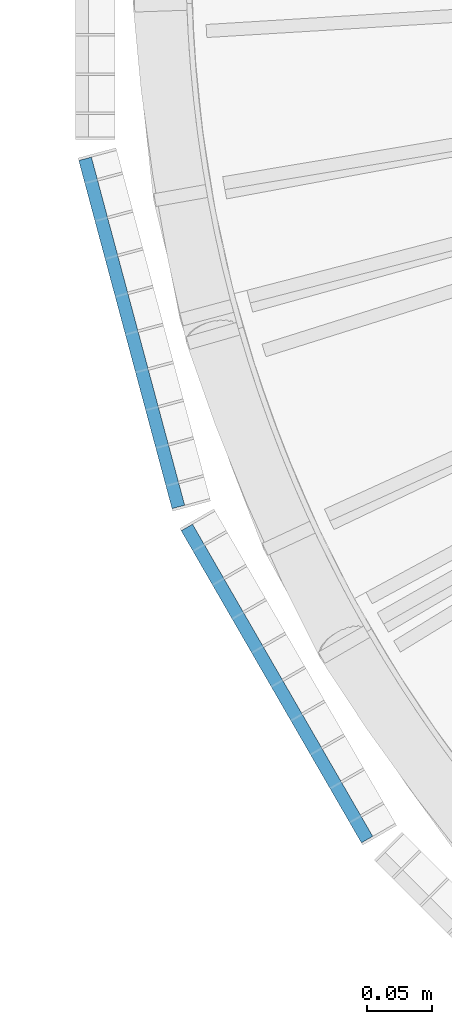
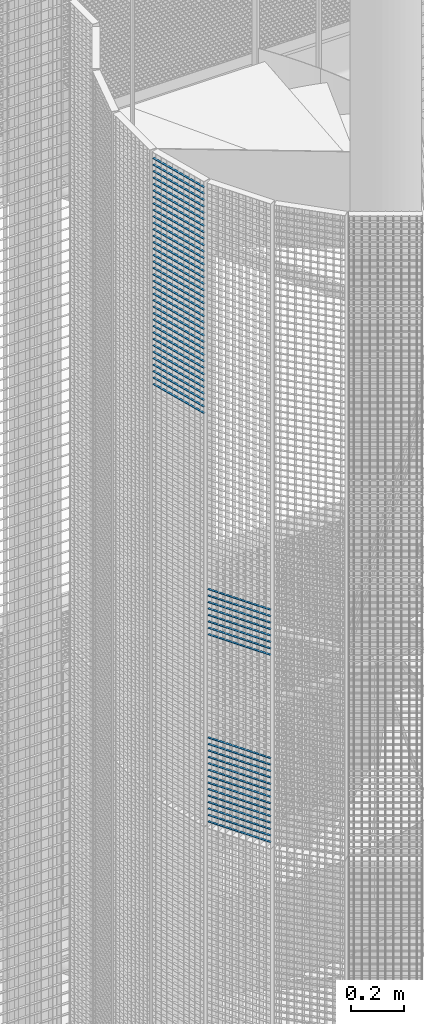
# One storey, part 107 of 1183: 58 beams, 2 elements without a shape of their own.
"""IFC2X3 building model written with IfcOpenShell, lengths in millimetres."""

import ifcopenshell
import ifcopenshell.guid

model = None  # the IFC model being written
_history = None  # IfcOwnerHistory: only IFC2X3 demands one
_inside = {}  # id of a spatial element -> (the spatial element, [elements in it])
_under = {}  # id of a project, library or spatial element -> (it, [spatial elements below it])
_declared = {}  # id of a project -> (the project, [libraries it declares])
_typed = {}  # id of a type object -> (the type object, [elements of that type])
_made_of = {}  # id of a material, layer set ... -> (it, [elements and type objects made of it])


def new_model(schema):
    """Start an empty IFC model of exactly this schema.

    Asked for "IFC4X3", IfcOpenShell would pick the latest addendum, in which some entities
    have other attributes; the version numbers below select the first issue.
    IFC2X3 requires an IfcOwnerHistory on every rooted entity: one is made here for all.
    """
    global model, _history
    if schema == "IFC4X3":
        model = ifcopenshell.file(schema_version=(4, 3, 0, 0))
    else:
        model = ifcopenshell.file(schema=schema)
    _inside.clear()
    _under.clear()
    _declared.clear()
    _typed.clear()
    _made_of.clear()
    _history = None
    if model.schema == "IFC2X3":
        org = make("IfcOrganization", Name="unknown")
        user = make(
            "IfcPersonAndOrganization",
            ThePerson=make("IfcPerson", FamilyName="unknown"),
            TheOrganization=org,
        )
        app = make(
            "IfcApplication",
            ApplicationDeveloper=org,
            Version="unknown",
            ApplicationFullName="unknown",
            ApplicationIdentifier="unknown",
        )
        _history = make(
            "IfcOwnerHistory",
            OwningUser=user,
            OwningApplication=app,
            ChangeAction="ADDED",
            CreationDate=0,
        )
    return model


def make(cls, **values):
    """One entity of the class cls with the attributes given. An attribute that is None is left unset."""
    return model.create_entity(
        cls, **{name: value for name, value in values.items() if value is not None}
    )


def rooted(cls, **values):
    """An entity with a GlobalId (a new one), such as an element, a storey or a relation."""
    return make(cls, GlobalId=ifcopenshell.guid.new(), OwnerHistory=_history, **values)


def si_unit(unit_type, name, prefix=None):
    """IfcSIUnit, for example si_unit("LENGTHUNIT", "METRE", prefix="MILLI")."""
    return make("IfcSIUnit", UnitType=unit_type, Prefix=prefix, Name=name)


def assignment(units):
    """IfcUnitAssignment: the units of a project."""
    return None if units is None else make("IfcUnitAssignment", Units=units)


def point(xyz):
    """IfcCartesianPoint."""
    return None if xyz is None else make("IfcCartesianPoint", Coordinates=xyz)


def direction(xyz):
    """IfcDirection."""
    return None if xyz is None else make("IfcDirection", DirectionRatios=xyz)


def frame(location, z_axis=None, x_axis=None):
    """IfcAxis2Placement3D, a coordinate frame: its origin and axes. An axis left out is left unset."""
    return make(
        "IfcAxis2Placement3D",
        Location=point(location),
        Axis=direction(z_axis),
        RefDirection=direction(x_axis),
    )


def frame_2d(location, x_axis=None):
    """IfcAxis2Placement2D, a coordinate frame in the plane: its origin and x axis."""
    return make(
        "IfcAxis2Placement2D", Location=point(location), RefDirection=direction(x_axis)
    )


def origin_with_axes():
    """The frame at (0, 0, 0) with the z axis (0, 0, 1) and the x axis (1, 0, 0) written out."""
    return frame((0.0, 0.0, 0.0), z_axis=(0.0, 0.0, 1.0), x_axis=(1.0, 0.0, 0.0))


def origin_2d_with_axis():
    """The frame at (0, 0) in the plane with the x axis (1, 0) written out."""
    return frame_2d((0.0, 0.0), x_axis=(1.0, 0.0))


def place(relative_to, where):
    """IfcLocalPlacement: puts the frame where relative to a parent placement (None: the world)."""
    return make(
        "IfcLocalPlacement", PlacementRelTo=relative_to, RelativePlacement=where
    )


def context(
    kind, dimensions, precision=None, world=None, true_north=None, identifier=None
):
    """IfcGeometricRepresentationContext, for example the 3D "Model" context."""
    return make(
        "IfcGeometricRepresentationContext",
        ContextIdentifier=identifier,
        ContextType=kind,
        CoordinateSpaceDimension=dimensions,
        Precision=precision,
        WorldCoordinateSystem=world,
        TrueNorth=true_north,
    )


def subcontext(parent, identifier, kind, view, scale=None):
    """IfcGeometricRepresentationSubContext, for example "Body" below "Model"."""
    return make(
        "IfcGeometricRepresentationSubContext",
        ContextIdentifier=identifier,
        ContextType=kind,
        ParentContext=parent,
        TargetScale=scale,
        TargetView=view,
    )


def project(units=None, contexts=None):
    """IfcProject with its units and contexts."""
    return rooted(
        "IfcProject",
        Name="project",
        RepresentationContexts=contexts,
        UnitsInContext=assignment(units),
    )


def spatial(cls, under=None, at=None, **own):
    """A site, building, storey or space (cls), placed at a placement, below another one or the project."""
    s = rooted(cls, ObjectPlacement=at, **own)
    if under is not None:
        _under.setdefault(under.id(), (under, []))[1].append(s)
    return s


def profile(cls, at=None, kind="AREA", **sizes):
    """A parametric profile (cls). Its sizes go by their IFC names, for example OverallWidth=200.0."""
    return make(cls, ProfileType=kind, Position=at, **sizes)


def rectangle(**sizes):
    """IfcRectangleProfileDef."""
    return profile("IfcRectangleProfileDef", **sizes)


def extrude(swept, where, along, depth):
    """IfcExtrudedAreaSolid: the profile swept, set in the frame where, extruded along a direction by depth."""
    return make(
        "IfcExtrudedAreaSolid",
        SweptArea=swept,
        Position=where,
        ExtrudedDirection=direction(along),
        Depth=depth,
    )


def shape(context_of_items, identifier, shape_type, items):
    """IfcShapeRepresentation: the items that make up one representation, for example the "Body"."""
    return make(
        "IfcShapeRepresentation",
        ContextOfItems=context_of_items,
        RepresentationIdentifier=identifier,
        RepresentationType=shape_type,
        Items=items,
    )


def material(Name=None, Category=None):
    """IfcMaterial."""
    return make("IfcMaterial", Name=Name, Category=Category)


def made_of(thing, what):
    """Note that an element or type object is made of a material, layer set ...; save() writes the relation."""
    if what is not None:
        _made_of.setdefault(what.id(), (what, []))[1].append(thing)
    return thing


def type_object(cls, material=None, **own):
    """A type object (cls), such as IfcWallType, which elements share."""
    return made_of(rooted(cls, **own), material)


def element(
    cls,
    number,
    at=None,
    inside=None,
    cuts=None,
    type_object=None,
    material=None,
    context=None,
    identifier="Body",
    shape_type=None,
    held_by="IfcProductDefinitionShape",
    body=None,
    shapes=None,
    **own,
):
    """One element of the class cls, such as IfcWall. Its Tag is "e" and its number.

    at: its placement. inside: the storey or other place that contains it. cuts: it is an
    opening in that element (IfcRelVoidsElement). A single representation is given by context,
    identifier, shape_type and body (its items); several are given by shapes. held_by: the class
    of the entity that holds the representations. save() writes the other relations.
    """
    e = rooted(cls, Tag="e%d" % number, ObjectPlacement=at, **own)
    if body is not None:
        shapes = [shape(context, identifier, shape_type, body)]
    if shapes is not None:
        e.Representation = make(held_by, Representations=shapes)
    if inside is not None:
        _inside.setdefault(inside.id(), (inside, []))[1].append(e)
    if cuts is not None:
        rooted(
            "IfcRelVoidsElement", RelatingBuildingElement=cuts, RelatedOpeningElement=e
        )
    if type_object is not None:
        _typed.setdefault(type_object.id(), (type_object, []))[1].append(e)
    return made_of(e, material)


def aggregate(whole, parts):
    """IfcRelAggregates: a whole, such as a stair, and the parts it consists of."""
    return rooted("IfcRelAggregates", RelatingObject=whole, RelatedObjects=parts)


def save(model, path):
    """Write the relations noted so far, then the file.

    IfcRelAggregates (storeys below a building ...), IfcRelContainedInSpatialStructure (elements
    in a storey), IfcRelDefinesByType, IfcRelAssociatesMaterial and IfcRelDeclares: one each for
    every whole, place, type object, material and project.
    """
    for whole, parts in _under.values():
        aggregate(whole, parts)
    for where, things in _inside.values():
        rooted(
            "IfcRelContainedInSpatialStructure",
            RelatedElements=things,
            RelatingStructure=where,
        )
    for kind, things in _typed.values():
        rooted("IfcRelDefinesByType", RelatedObjects=things, RelatingType=kind)
    for what, things in _made_of.values():
        rooted("IfcRelAssociatesMaterial", RelatedObjects=things, RelatingMaterial=what)
    for by, libraries in _declared.values():
        rooted("IfcRelDeclares", RelatingContext=by, RelatedDefinitions=libraries)
    model.write(path)


model = new_model("IFC2X3")

# Units and contexts
model_context = context("Model", 3, precision=1e-05, world=origin_with_axes())
body_context = subcontext(model_context, "Body", "Model", "MODEL_VIEW")
ifc_project = project(units=[si_unit("LENGTHUNIT", "METRE", prefix="MILLI"), si_unit("AREAUNIT", "SQUARE_METRE"), si_unit("VOLUMEUNIT", "CUBIC_METRE"), si_unit("MASSUNIT", "GRAM", prefix="KILO"), si_unit("TIMEUNIT", "SECOND"), si_unit("PLANEANGLEUNIT", "RADIAN"), si_unit("SOLIDANGLEUNIT", "STERADIAN"), si_unit("THERMODYNAMICTEMPERATUREUNIT", "DEGREE_CELSIUS"), si_unit("LUMINOUSINTENSITYUNIT", "LUMEN")], contexts=[model_context])

# Site, building, storey
site_placement = place(None, origin_with_axes())
site = spatial("IfcSite", under=ifc_project, at=site_placement, Name="Undefined", CompositionType="ELEMENT")
building_placement = place(site_placement, origin_with_axes())
building = spatial("IfcBuilding", under=site, at=building_placement, Name="Undefined", CompositionType="ELEMENT")
storey_placement = place(building_placement, origin_with_axes())
storey = spatial("IfcBuildingStorey", under=building, at=storey_placement, Name="Undefined", CompositionType="ELEMENT", Elevation=0.0)

# Assembly, beams
assembly_1_placement = place(storey_placement, origin_with_axes())
assembly_1 = element("IfcElementAssembly", 1, at=assembly_1_placement, inside=storey, Name="BORDURE", AssemblyPlace="NOTDEFINED", PredefinedType="NOTDEFINED")
ifc_material = material(Name="STEEL/S235JR")
beam_type = type_object("IfcBeamType", Name="PL2*10", PredefinedType="NOTDEFINED")
beam_1_placement = place(assembly_1_placement, frame((-1033.29996828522, -437.231955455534, 15420.0), z_axis=(-0.866025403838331, -0.499999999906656, 0.0), x_axis=(0.499999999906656, -0.866025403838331, 0.0)))
beam_1 = element("IfcBeam", 2, at=beam_1_placement, type_object=beam_type, material=ifc_material, Name="ENTRETOISE", context=body_context, shape_type="SweptSolid", body=[
    extrude(rectangle(XDim=2.0, YDim=10.0, at=origin_2d_with_axis()), frame((275.999999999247, 9.09494701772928e-13, 1.53210777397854e-14), z_axis=(-1.0, 0.0, 0.0), x_axis=(0.0, -1.0, 0.0)), (0.0, 0.0, 1.0), 276.0),
])
beam_2_placement = place(assembly_1_placement, frame((-1033.29996828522, -437.231955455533, 15900.0), z_axis=(-0.866025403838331, -0.499999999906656, 0.0), x_axis=(0.499999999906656, -0.866025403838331, 0.0)))
beam_2 = element("IfcBeam", 3, at=beam_2_placement, type_object=beam_type, material=ifc_material, Name="ENTRETOISE", context=body_context, shape_type="SweptSolid", body=[
    extrude(rectangle(XDim=2.0, YDim=10.0, at=origin_2d_with_axis()), frame((275.999999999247, 9.09494701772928e-13, 1.53210777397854e-14), z_axis=(-1.0, 0.0, 0.0), x_axis=(0.0, -1.0, 0.0)), (0.0, 0.0, 1.0), 276.0),
])
beam_3_placement = place(assembly_1_placement, frame((-1033.29996828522, -437.231955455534, 15390.0), z_axis=(-0.866025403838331, -0.499999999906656, 0.0), x_axis=(0.499999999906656, -0.866025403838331, 0.0)))
beam_3 = element("IfcBeam", 4, at=beam_3_placement, type_object=beam_type, material=ifc_material, Name="ENTRETOISE", context=body_context, shape_type="SweptSolid", body=[
    extrude(rectangle(XDim=2.0, YDim=10.0, at=origin_2d_with_axis()), frame((275.999999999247, 9.09494701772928e-13, 1.53210777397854e-14), z_axis=(-1.0, 0.0, 0.0), x_axis=(0.0, -1.0, 0.0)), (0.0, 0.0, 1.0), 276.0),
])
beam_4_placement = place(assembly_1_placement, frame((-1033.29996828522, -437.231955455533, 15930.0), z_axis=(-0.866025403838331, -0.499999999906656, 0.0), x_axis=(0.499999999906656, -0.866025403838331, 0.0)))
beam_4 = element("IfcBeam", 5, at=beam_4_placement, type_object=beam_type, material=ifc_material, Name="ENTRETOISE", context=body_context, shape_type="SweptSolid", body=[
    extrude(rectangle(XDim=2.0, YDim=10.0, at=origin_2d_with_axis()), frame((275.999999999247, 9.09494701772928e-13, 1.53210777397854e-14), z_axis=(-1.0, 0.0, 0.0), x_axis=(0.0, -1.0, 0.0)), (0.0, 0.0, 1.0), 276.0),
])
beam_5_placement = place(assembly_1_placement, frame((-1033.29996828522, -437.231955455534, 15360.0), z_axis=(-0.866025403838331, -0.499999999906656, 0.0), x_axis=(0.499999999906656, -0.866025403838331, 0.0)))
beam_5 = element("IfcBeam", 6, at=beam_5_placement, type_object=beam_type, material=ifc_material, Name="ENTRETOISE", context=body_context, shape_type="SweptSolid", body=[
    extrude(rectangle(XDim=2.0, YDim=10.0, at=origin_2d_with_axis()), frame((275.999999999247, 9.09494701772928e-13, 1.53210777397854e-14), z_axis=(-1.0, 0.0, 0.0), x_axis=(0.0, -1.0, 0.0)), (0.0, 0.0, 1.0), 276.0),
])
beam_6_placement = place(assembly_1_placement, frame((-1033.29996828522, -437.231955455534, 15330.0), z_axis=(-0.866025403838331, -0.499999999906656, 0.0), x_axis=(0.499999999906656, -0.866025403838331, 0.0)))
beam_6 = element("IfcBeam", 7, at=beam_6_placement, type_object=beam_type, material=ifc_material, Name="ENTRETOISE", context=body_context, shape_type="SweptSolid", body=[
    extrude(rectangle(XDim=2.0, YDim=10.0, at=origin_2d_with_axis()), frame((275.999999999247, 9.09494701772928e-13, 1.53210777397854e-14), z_axis=(-1.0, 0.0, 0.0), x_axis=(0.0, -1.0, 0.0)), (0.0, 0.0, 1.0), 276.0),
])
beam_7_placement = place(assembly_1_placement, frame((-1033.29996828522, -437.231955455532, 15960.0), z_axis=(-0.866025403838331, -0.499999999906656, 0.0), x_axis=(0.499999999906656, -0.866025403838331, 0.0)))
beam_7 = element("IfcBeam", 8, at=beam_7_placement, type_object=beam_type, material=ifc_material, Name="ENTRETOISE", context=body_context, shape_type="SweptSolid", body=[
    extrude(rectangle(XDim=2.0, YDim=10.0, at=origin_2d_with_axis()), frame((275.999999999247, 9.09494701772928e-13, 1.53210777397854e-14), z_axis=(-1.0, 0.0, 0.0), x_axis=(0.0, -1.0, 0.0)), (0.0, 0.0, 1.0), 276.0),
])
beam_8_placement = place(assembly_1_placement, frame((-1033.29996828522, -437.231955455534, 15300.0), z_axis=(-0.866025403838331, -0.499999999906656, 0.0), x_axis=(0.499999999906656, -0.866025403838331, 0.0)))
beam_8 = element("IfcBeam", 9, at=beam_8_placement, type_object=beam_type, material=ifc_material, Name="ENTRETOISE", context=body_context, shape_type="SweptSolid", body=[
    extrude(rectangle(XDim=2.0, YDim=10.0, at=origin_2d_with_axis()), frame((275.999999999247, 9.09494701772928e-13, 1.53210777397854e-14), z_axis=(-1.0, 0.0, 0.0), x_axis=(0.0, -1.0, 0.0)), (0.0, 0.0, 1.0), 276.0),
])
beam_9_placement = place(assembly_1_placement, frame((-1033.29996828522, -437.231955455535, 15270.0), z_axis=(-0.866025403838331, -0.499999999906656, 0.0), x_axis=(0.499999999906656, -0.866025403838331, 0.0)))
beam_9 = element("IfcBeam", 10, at=beam_9_placement, type_object=beam_type, material=ifc_material, Name="ENTRETOISE", context=body_context, shape_type="SweptSolid", body=[
    extrude(rectangle(XDim=2.0, YDim=10.0, at=origin_2d_with_axis()), frame((275.999999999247, 9.09494701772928e-13, 1.53210777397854e-14), z_axis=(-1.0, 0.0, 0.0), x_axis=(0.0, -1.0, 0.0)), (0.0, 0.0, 1.0), 276.0),
])
beam_10_placement = place(assembly_1_placement, frame((-1033.29996828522, -437.231955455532, 15990.0), z_axis=(-0.866025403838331, -0.499999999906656, 0.0), x_axis=(0.499999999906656, -0.866025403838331, 0.0)))
beam_10 = element("IfcBeam", 11, at=beam_10_placement, type_object=beam_type, material=ifc_material, Name="ENTRETOISE", context=body_context, shape_type="SweptSolid", body=[
    extrude(rectangle(XDim=2.0, YDim=10.0, at=origin_2d_with_axis()), frame((275.999999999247, 9.09494701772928e-13, 1.53210777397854e-14), z_axis=(-1.0, 0.0, 0.0), x_axis=(0.0, -1.0, 0.0)), (0.0, 0.0, 1.0), 276.0),
])
beam_11_placement = place(assembly_1_placement, frame((-1033.29996828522, -437.231955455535, 15240.0), z_axis=(-0.866025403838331, -0.499999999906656, 0.0), x_axis=(0.499999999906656, -0.866025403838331, 0.0)))
beam_11 = element("IfcBeam", 12, at=beam_11_placement, type_object=beam_type, material=ifc_material, Name="ENTRETOISE", context=body_context, shape_type="SweptSolid", body=[
    extrude(rectangle(XDim=2.0, YDim=10.0, at=origin_2d_with_axis()), frame((275.999999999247, 9.09494701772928e-13, 1.53210777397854e-14), z_axis=(-1.0, 0.0, 0.0), x_axis=(0.0, -1.0, 0.0)), (0.0, 0.0, 1.0), 276.0),
])
beam_12_placement = place(assembly_1_placement, frame((-1033.29996828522, -437.231955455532, 16020.0), z_axis=(-0.866025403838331, -0.499999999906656, 0.0), x_axis=(0.499999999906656, -0.866025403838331, 0.0)))
beam_12 = element("IfcBeam", 13, at=beam_12_placement, type_object=beam_type, material=ifc_material, Name="ENTRETOISE", context=body_context, shape_type="SweptSolid", body=[
    extrude(rectangle(XDim=2.0, YDim=10.0, at=origin_2d_with_axis()), frame((275.999999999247, 9.09494701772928e-13, 1.53210777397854e-14), z_axis=(-1.0, 0.0, 0.0), x_axis=(0.0, -1.0, 0.0)), (0.0, 0.0, 1.0), 276.0),
])
beam_13_placement = place(assembly_1_placement, frame((-1033.29996828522, -437.231955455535, 15210.0), z_axis=(-0.866025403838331, -0.499999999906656, 0.0), x_axis=(0.499999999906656, -0.866025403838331, 0.0)))
beam_13 = element("IfcBeam", 14, at=beam_13_placement, type_object=beam_type, material=ifc_material, Name="ENTRETOISE", context=body_context, shape_type="SweptSolid", body=[
    extrude(rectangle(XDim=2.0, YDim=10.0, at=origin_2d_with_axis()), frame((275.999999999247, 9.09494701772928e-13, 1.53210777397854e-14), z_axis=(-1.0, 0.0, 0.0), x_axis=(0.0, -1.0, 0.0)), (0.0, 0.0, 1.0), 276.0),
])
beam_14_placement = place(assembly_1_placement, frame((-1033.29996828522, -437.231955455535, 15180.0), z_axis=(-0.866025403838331, -0.499999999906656, 0.0), x_axis=(0.499999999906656, -0.866025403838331, 0.0)))
beam_14 = element("IfcBeam", 15, at=beam_14_placement, type_object=beam_type, material=ifc_material, Name="ENTRETOISE", context=body_context, shape_type="SweptSolid", body=[
    extrude(rectangle(XDim=2.0, YDim=10.0, at=origin_2d_with_axis()), frame((275.999999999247, 9.09494701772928e-13, 1.53210777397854e-14), z_axis=(-1.0, 0.0, 0.0), x_axis=(0.0, -1.0, 0.0)), (0.0, 0.0, 1.0), 276.0),
])
beam_15_placement = place(assembly_1_placement, frame((-1033.29996828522, -437.231955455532, 16050.0), z_axis=(-0.866025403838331, -0.499999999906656, 0.0), x_axis=(0.499999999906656, -0.866025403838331, 0.0)))
beam_15 = element("IfcBeam", 16, at=beam_15_placement, type_object=beam_type, material=ifc_material, Name="ENTRETOISE", context=body_context, shape_type="SweptSolid", body=[
    extrude(rectangle(XDim=2.0, YDim=10.0, at=origin_2d_with_axis()), frame((275.999999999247, 9.09494701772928e-13, 1.53210777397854e-14), z_axis=(-1.0, 0.0, 0.0), x_axis=(0.0, -1.0, 0.0)), (0.0, 0.0, 1.0), 276.0),
])
beam_16_placement = place(assembly_1_placement, frame((-1033.29996828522, -437.231955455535, 15150.0), z_axis=(-0.866025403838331, -0.499999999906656, 0.0), x_axis=(0.499999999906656, -0.866025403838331, 0.0)))
beam_16 = element("IfcBeam", 17, at=beam_16_placement, type_object=beam_type, material=ifc_material, Name="ENTRETOISE", context=body_context, shape_type="SweptSolid", body=[
    extrude(rectangle(XDim=2.0, YDim=10.0, at=origin_2d_with_axis()), frame((275.999999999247, 9.09494701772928e-13, 1.53210777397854e-14), z_axis=(-1.0, 0.0, 0.0), x_axis=(0.0, -1.0, 0.0)), (0.0, 0.0, 1.0), 276.0),
])
beam_17_placement = place(assembly_1_placement, frame((-1033.29996828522, -437.231955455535, 15120.0), z_axis=(-0.866025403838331, -0.499999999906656, 0.0), x_axis=(0.499999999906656, -0.866025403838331, 0.0)))
beam_17 = element("IfcBeam", 18, at=beam_17_placement, type_object=beam_type, material=ifc_material, Name="ENTRETOISE", context=body_context, shape_type="SweptSolid", body=[
    extrude(rectangle(XDim=2.0, YDim=10.0, at=origin_2d_with_axis()), frame((275.999999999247, 9.09494701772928e-13, 1.53210777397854e-14), z_axis=(-1.0, 0.0, 0.0), x_axis=(0.0, -1.0, 0.0)), (0.0, 0.0, 1.0), 276.0),
])
beam_18_placement = place(assembly_1_placement, frame((-1033.29996828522, -437.231955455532, 16080.0), z_axis=(-0.866025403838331, -0.499999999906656, 0.0), x_axis=(0.499999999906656, -0.866025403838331, 0.0)))
beam_18 = element("IfcBeam", 19, at=beam_18_placement, type_object=beam_type, material=ifc_material, Name="ENTRETOISE", context=body_context, shape_type="SweptSolid", body=[
    extrude(rectangle(XDim=2.0, YDim=10.0, at=origin_2d_with_axis()), frame((275.999999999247, 9.09494701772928e-13, 1.53210777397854e-14), z_axis=(-1.0, 0.0, 0.0), x_axis=(0.0, -1.0, 0.0)), (0.0, 0.0, 1.0), 276.0),
])
beam_19_placement = place(assembly_1_placement, frame((-1033.29996828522, -437.231955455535, 15090.0), z_axis=(-0.866025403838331, -0.499999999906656, 0.0), x_axis=(0.499999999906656, -0.866025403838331, 0.0)))
beam_19 = element("IfcBeam", 20, at=beam_19_placement, type_object=beam_type, material=ifc_material, Name="ENTRETOISE", context=body_context, shape_type="SweptSolid", body=[
    extrude(rectangle(XDim=2.0, YDim=10.0, at=origin_2d_with_axis()), frame((275.999999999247, 9.09494701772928e-13, 1.53210777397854e-14), z_axis=(-1.0, 0.0, 0.0), x_axis=(0.0, -1.0, 0.0)), (0.0, 0.0, 1.0), 276.0),
])
beam_20_placement = place(assembly_1_placement, frame((-1033.29996828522, -437.231955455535, 15060.0), z_axis=(-0.866025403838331, -0.499999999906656, 0.0), x_axis=(0.499999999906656, -0.866025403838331, 0.0)))
beam_20 = element("IfcBeam", 21, at=beam_20_placement, type_object=beam_type, material=ifc_material, Name="ENTRETOISE", context=body_context, shape_type="SweptSolid", body=[
    extrude(rectangle(XDim=2.0, YDim=10.0, at=origin_2d_with_axis()), frame((275.999999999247, 9.09494701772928e-13, 1.53210777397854e-14), z_axis=(-1.0, 0.0, 0.0), x_axis=(0.0, -1.0, 0.0)), (0.0, 0.0, 1.0), 276.0),
])
beam_21_placement = place(assembly_1_placement, frame((-1033.29996828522, -437.231955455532, 16110.0), z_axis=(-0.866025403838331, -0.499999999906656, 0.0), x_axis=(0.499999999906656, -0.866025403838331, 0.0)))
beam_21 = element("IfcBeam", 22, at=beam_21_placement, type_object=beam_type, material=ifc_material, Name="ENTRETOISE", context=body_context, shape_type="SweptSolid", body=[
    extrude(rectangle(XDim=2.0, YDim=10.0, at=origin_2d_with_axis()), frame((275.999999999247, 9.09494701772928e-13, 1.53210777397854e-14), z_axis=(-1.0, 0.0, 0.0), x_axis=(0.0, -1.0, 0.0)), (0.0, 0.0, 1.0), 276.0),
])
beam_22_placement = place(assembly_1_placement, frame((-1033.29996828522, -437.231955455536, 15030.0), z_axis=(-0.866025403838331, -0.499999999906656, 0.0), x_axis=(0.499999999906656, -0.866025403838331, 0.0)))
beam_22 = element("IfcBeam", 23, at=beam_22_placement, type_object=beam_type, material=ifc_material, Name="ENTRETOISE", context=body_context, shape_type="SweptSolid", body=[
    extrude(rectangle(XDim=2.0, YDim=10.0, at=origin_2d_with_axis()), frame((275.999999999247, 9.09494701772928e-13, 1.53210777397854e-14), z_axis=(-1.0, 0.0, 0.0), x_axis=(0.0, -1.0, 0.0)), (0.0, 0.0, 1.0), 276.0),
])
aggregate(assembly_1, [beam_1, beam_2, beam_3, beam_4, beam_5, beam_6, beam_7, beam_8, beam_9, beam_10, beam_11, beam_12, beam_13, beam_14, beam_15, beam_16, beam_17, beam_18, beam_19, beam_20, beam_21, beam_22])

assembly_2_placement = place(storey_placement, origin_with_axes())
assembly_2 = element("IfcElementAssembly", 24, at=assembly_2_placement, inside=storey, Name="BORDURE", AssemblyPlace="NOTDEFINED", PredefinedType="NOTDEFINED")
beam_23_placement = place(assembly_2_placement, frame((-1111.25508286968, -154.895926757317, 17970.0), z_axis=(-0.965925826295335, -0.258819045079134, 0.0), x_axis=(0.258819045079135, -0.965925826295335, 0.0)))
beam_23 = element("IfcBeam", 25, at=beam_23_placement, type_object=beam_type, material=ifc_material, Name="ENTRETOISE", context=body_context, shape_type="SweptSolid", body=[
    extrude(rectangle(XDim=2.0, YDim=10.0, at=origin_2d_with_axis()), frame((275.999999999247, 9.09494701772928e-13, 1.53210777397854e-14), z_axis=(-1.0, 0.0, 0.0), x_axis=(0.0, -1.0, 0.0)), (0.0, 0.0, 1.0), 276.0),
])
beam_24_placement = place(assembly_2_placement, frame((-1111.25508286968, -154.895926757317, 17940.0), z_axis=(-0.965925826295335, -0.258819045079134, 0.0), x_axis=(0.258819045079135, -0.965925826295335, 0.0)))
beam_24 = element("IfcBeam", 26, at=beam_24_placement, type_object=beam_type, material=ifc_material, Name="ENTRETOISE", context=body_context, shape_type="SweptSolid", body=[
    extrude(rectangle(XDim=2.0, YDim=10.0, at=origin_2d_with_axis()), frame((275.999999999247, 9.09494701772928e-13, 1.53210777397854e-14), z_axis=(-1.0, 0.0, 0.0), x_axis=(0.0, -1.0, 0.0)), (0.0, 0.0, 1.0), 276.0),
])
beam_25_placement = place(assembly_2_placement, frame((-1111.25508286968, -154.895926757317, 17910.0), z_axis=(-0.965925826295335, -0.258819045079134, 0.0), x_axis=(0.258819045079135, -0.965925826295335, 0.0)))
beam_25 = element("IfcBeam", 27, at=beam_25_placement, type_object=beam_type, material=ifc_material, Name="ENTRETOISE", context=body_context, shape_type="SweptSolid", body=[
    extrude(rectangle(XDim=2.0, YDim=10.0, at=origin_2d_with_axis()), frame((275.999999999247, 9.09494701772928e-13, 1.53210777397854e-14), z_axis=(-1.0, 0.0, 0.0), x_axis=(0.0, -1.0, 0.0)), (0.0, 0.0, 1.0), 276.0),
])
beam_26_placement = place(assembly_2_placement, frame((-1111.25508286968, -154.895926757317, 17880.0), z_axis=(-0.965925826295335, -0.258819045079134, 0.0), x_axis=(0.258819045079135, -0.965925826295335, 0.0)))
beam_26 = element("IfcBeam", 28, at=beam_26_placement, type_object=beam_type, material=ifc_material, Name="ENTRETOISE", context=body_context, shape_type="SweptSolid", body=[
    extrude(rectangle(XDim=2.0, YDim=10.0, at=origin_2d_with_axis()), frame((275.999999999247, 9.09494701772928e-13, 1.53210777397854e-14), z_axis=(-1.0, 0.0, 0.0), x_axis=(0.0, -1.0, 0.0)), (0.0, 0.0, 1.0), 276.0),
])
beam_27_placement = place(assembly_2_placement, frame((-1111.25508286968, -154.895926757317, 17850.0), z_axis=(-0.965925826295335, -0.258819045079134, 0.0), x_axis=(0.258819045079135, -0.965925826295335, 0.0)))
beam_27 = element("IfcBeam", 29, at=beam_27_placement, type_object=beam_type, material=ifc_material, Name="ENTRETOISE", context=body_context, shape_type="SweptSolid", body=[
    extrude(rectangle(XDim=2.0, YDim=10.0, at=origin_2d_with_axis()), frame((275.999999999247, 9.09494701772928e-13, 1.53210777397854e-14), z_axis=(-1.0, 0.0, 0.0), x_axis=(0.0, -1.0, 0.0)), (0.0, 0.0, 1.0), 276.0),
])
beam_28_placement = place(assembly_2_placement, frame((-1111.25508286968, -154.895926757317, 17820.0), z_axis=(-0.965925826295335, -0.258819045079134, 0.0), x_axis=(0.258819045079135, -0.965925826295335, 0.0)))
beam_28 = element("IfcBeam", 30, at=beam_28_placement, type_object=beam_type, material=ifc_material, Name="ENTRETOISE", context=body_context, shape_type="SweptSolid", body=[
    extrude(rectangle(XDim=2.0, YDim=10.0, at=origin_2d_with_axis()), frame((275.999999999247, 9.09494701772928e-13, 1.53210777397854e-14), z_axis=(-1.0, 0.0, 0.0), x_axis=(0.0, -1.0, 0.0)), (0.0, 0.0, 1.0), 276.0),
])
beam_29_placement = place(assembly_2_placement, frame((-1111.25508286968, -154.895926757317, 17790.0), z_axis=(-0.965925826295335, -0.258819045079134, 0.0), x_axis=(0.258819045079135, -0.965925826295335, 0.0)))
beam_29 = element("IfcBeam", 31, at=beam_29_placement, type_object=beam_type, material=ifc_material, Name="ENTRETOISE", context=body_context, shape_type="SweptSolid", body=[
    extrude(rectangle(XDim=2.0, YDim=10.0, at=origin_2d_with_axis()), frame((275.999999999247, 9.09494701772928e-13, 1.53210777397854e-14), z_axis=(-1.0, 0.0, 0.0), x_axis=(0.0, -1.0, 0.0)), (0.0, 0.0, 1.0), 276.0),
])
beam_30_placement = place(assembly_2_placement, frame((-1111.25508286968, -154.895926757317, 17760.0), z_axis=(-0.965925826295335, -0.258819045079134, 0.0), x_axis=(0.258819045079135, -0.965925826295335, 0.0)))
beam_30 = element("IfcBeam", 32, at=beam_30_placement, type_object=beam_type, material=ifc_material, Name="ENTRETOISE", context=body_context, shape_type="SweptSolid", body=[
    extrude(rectangle(XDim=2.0, YDim=10.0, at=origin_2d_with_axis()), frame((275.999999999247, 9.09494701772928e-13, 1.53210777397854e-14), z_axis=(-1.0, 0.0, 0.0), x_axis=(0.0, -1.0, 0.0)), (0.0, 0.0, 1.0), 276.0),
])
beam_31_placement = place(assembly_2_placement, frame((-1111.25508286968, -154.895926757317, 17730.0), z_axis=(-0.965925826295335, -0.258819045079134, 0.0), x_axis=(0.258819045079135, -0.965925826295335, 0.0)))
beam_31 = element("IfcBeam", 33, at=beam_31_placement, type_object=beam_type, material=ifc_material, Name="ENTRETOISE", context=body_context, shape_type="SweptSolid", body=[
    extrude(rectangle(XDim=2.0, YDim=10.0, at=origin_2d_with_axis()), frame((275.999999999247, 9.09494701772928e-13, 1.53210777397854e-14), z_axis=(-1.0, 0.0, 0.0), x_axis=(0.0, -1.0, 0.0)), (0.0, 0.0, 1.0), 276.0),
])
beam_32_placement = place(assembly_2_placement, frame((-1111.25508286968, -154.895926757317, 17700.0), z_axis=(-0.965925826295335, -0.258819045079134, 0.0), x_axis=(0.258819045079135, -0.965925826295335, 0.0)))
beam_32 = element("IfcBeam", 34, at=beam_32_placement, type_object=beam_type, material=ifc_material, Name="ENTRETOISE", context=body_context, shape_type="SweptSolid", body=[
    extrude(rectangle(XDim=2.0, YDim=10.0, at=origin_2d_with_axis()), frame((275.999999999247, 9.09494701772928e-13, 1.53210777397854e-14), z_axis=(-1.0, 0.0, 0.0), x_axis=(0.0, -1.0, 0.0)), (0.0, 0.0, 1.0), 276.0),
])
beam_33_placement = place(assembly_2_placement, frame((-1111.25508286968, -154.895926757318, 17670.0), z_axis=(-0.965925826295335, -0.258819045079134, 0.0), x_axis=(0.258819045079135, -0.965925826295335, 0.0)))
beam_33 = element("IfcBeam", 35, at=beam_33_placement, type_object=beam_type, material=ifc_material, Name="ENTRETOISE", context=body_context, shape_type="SweptSolid", body=[
    extrude(rectangle(XDim=2.0, YDim=10.0, at=origin_2d_with_axis()), frame((275.999999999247, 9.09494701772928e-13, 1.53210777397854e-14), z_axis=(-1.0, 0.0, 0.0), x_axis=(0.0, -1.0, 0.0)), (0.0, 0.0, 1.0), 276.0),
])
beam_34_placement = place(assembly_2_placement, frame((-1111.25508286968, -154.895926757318, 17640.0), z_axis=(-0.965925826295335, -0.258819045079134, 0.0), x_axis=(0.258819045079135, -0.965925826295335, 0.0)))
beam_34 = element("IfcBeam", 36, at=beam_34_placement, type_object=beam_type, material=ifc_material, Name="ENTRETOISE", context=body_context, shape_type="SweptSolid", body=[
    extrude(rectangle(XDim=2.0, YDim=10.0, at=origin_2d_with_axis()), frame((275.999999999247, 9.09494701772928e-13, 1.53210777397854e-14), z_axis=(-1.0, 0.0, 0.0), x_axis=(0.0, -1.0, 0.0)), (0.0, 0.0, 1.0), 276.0),
])
beam_35_placement = place(assembly_2_placement, frame((-1111.25508286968, -154.895926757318, 17610.0), z_axis=(-0.965925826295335, -0.258819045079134, 0.0), x_axis=(0.258819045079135, -0.965925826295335, 0.0)))
beam_35 = element("IfcBeam", 37, at=beam_35_placement, type_object=beam_type, material=ifc_material, Name="ENTRETOISE", context=body_context, shape_type="SweptSolid", body=[
    extrude(rectangle(XDim=2.0, YDim=10.0, at=origin_2d_with_axis()), frame((275.999999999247, 9.09494701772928e-13, 1.53210777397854e-14), z_axis=(-1.0, 0.0, 0.0), x_axis=(0.0, -1.0, 0.0)), (0.0, 0.0, 1.0), 276.0),
])
beam_36_placement = place(assembly_2_placement, frame((-1111.25508286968, -154.895926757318, 17580.0), z_axis=(-0.965925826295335, -0.258819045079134, 0.0), x_axis=(0.258819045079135, -0.965925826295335, 0.0)))
beam_36 = element("IfcBeam", 38, at=beam_36_placement, type_object=beam_type, material=ifc_material, Name="ENTRETOISE", context=body_context, shape_type="SweptSolid", body=[
    extrude(rectangle(XDim=2.0, YDim=10.0, at=origin_2d_with_axis()), frame((275.999999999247, 9.09494701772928e-13, 1.53210777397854e-14), z_axis=(-1.0, 0.0, 0.0), x_axis=(0.0, -1.0, 0.0)), (0.0, 0.0, 1.0), 276.0),
])
beam_37_placement = place(assembly_2_placement, frame((-1111.25508286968, -154.895926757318, 17550.0), z_axis=(-0.965925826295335, -0.258819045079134, 0.0), x_axis=(0.258819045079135, -0.965925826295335, 0.0)))
beam_37 = element("IfcBeam", 39, at=beam_37_placement, type_object=beam_type, material=ifc_material, Name="ENTRETOISE", context=body_context, shape_type="SweptSolid", body=[
    extrude(rectangle(XDim=2.0, YDim=10.0, at=origin_2d_with_axis()), frame((275.999999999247, 9.09494701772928e-13, 1.53210777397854e-14), z_axis=(-1.0, 0.0, 0.0), x_axis=(0.0, -1.0, 0.0)), (0.0, 0.0, 1.0), 276.0),
])
beam_38_placement = place(assembly_2_placement, frame((-1111.25508286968, -154.895926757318, 17520.0), z_axis=(-0.965925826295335, -0.258819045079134, 0.0), x_axis=(0.258819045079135, -0.965925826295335, 0.0)))
beam_38 = element("IfcBeam", 40, at=beam_38_placement, type_object=beam_type, material=ifc_material, Name="ENTRETOISE", context=body_context, shape_type="SweptSolid", body=[
    extrude(rectangle(XDim=2.0, YDim=10.0, at=origin_2d_with_axis()), frame((275.999999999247, 9.09494701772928e-13, 1.53210777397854e-14), z_axis=(-1.0, 0.0, 0.0), x_axis=(0.0, -1.0, 0.0)), (0.0, 0.0, 1.0), 276.0),
])
beam_39_placement = place(assembly_2_placement, frame((-1111.25508286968, -154.895926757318, 17490.0), z_axis=(-0.965925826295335, -0.258819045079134, 0.0), x_axis=(0.258819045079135, -0.965925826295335, 0.0)))
beam_39 = element("IfcBeam", 41, at=beam_39_placement, type_object=beam_type, material=ifc_material, Name="ENTRETOISE", context=body_context, shape_type="SweptSolid", body=[
    extrude(rectangle(XDim=2.0, YDim=10.0, at=origin_2d_with_axis()), frame((275.999999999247, 9.09494701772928e-13, 1.53210777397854e-14), z_axis=(-1.0, 0.0, 0.0), x_axis=(0.0, -1.0, 0.0)), (0.0, 0.0, 1.0), 276.0),
])
beam_40_placement = place(assembly_2_placement, frame((-1111.25508286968, -154.895926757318, 17460.0), z_axis=(-0.965925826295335, -0.258819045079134, 0.0), x_axis=(0.258819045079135, -0.965925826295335, 0.0)))
beam_40 = element("IfcBeam", 42, at=beam_40_placement, type_object=beam_type, material=ifc_material, Name="ENTRETOISE", context=body_context, shape_type="SweptSolid", body=[
    extrude(rectangle(XDim=2.0, YDim=10.0, at=origin_2d_with_axis()), frame((275.999999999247, 9.09494701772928e-13, 1.53210777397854e-14), z_axis=(-1.0, 0.0, 0.0), x_axis=(0.0, -1.0, 0.0)), (0.0, 0.0, 1.0), 276.0),
])
beam_41_placement = place(assembly_2_placement, frame((-1111.25508286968, -154.895926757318, 17430.0), z_axis=(-0.965925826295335, -0.258819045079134, 0.0), x_axis=(0.258819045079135, -0.965925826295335, 0.0)))
beam_41 = element("IfcBeam", 43, at=beam_41_placement, type_object=beam_type, material=ifc_material, Name="ENTRETOISE", context=body_context, shape_type="SweptSolid", body=[
    extrude(rectangle(XDim=2.0, YDim=10.0, at=origin_2d_with_axis()), frame((275.999999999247, 9.09494701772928e-13, 1.53210777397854e-14), z_axis=(-1.0, 0.0, 0.0), x_axis=(0.0, -1.0, 0.0)), (0.0, 0.0, 1.0), 276.0),
])
beam_42_placement = place(assembly_2_placement, frame((-1111.25508286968, -154.895926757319, 17400.0), z_axis=(-0.965925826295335, -0.258819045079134, 0.0), x_axis=(0.258819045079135, -0.965925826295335, 0.0)))
beam_42 = element("IfcBeam", 44, at=beam_42_placement, type_object=beam_type, material=ifc_material, Name="ENTRETOISE", context=body_context, shape_type="SweptSolid", body=[
    extrude(rectangle(XDim=2.0, YDim=10.0, at=origin_2d_with_axis()), frame((275.999999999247, 9.09494701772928e-13, 1.53210777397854e-14), z_axis=(-1.0, 0.0, 0.0), x_axis=(0.0, -1.0, 0.0)), (0.0, 0.0, 1.0), 276.0),
])
beam_43_placement = place(assembly_2_placement, frame((-1111.25508286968, -154.895926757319, 17370.0), z_axis=(-0.965925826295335, -0.258819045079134, 0.0), x_axis=(0.258819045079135, -0.965925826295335, 0.0)))
beam_43 = element("IfcBeam", 45, at=beam_43_placement, type_object=beam_type, material=ifc_material, Name="ENTRETOISE", context=body_context, shape_type="SweptSolid", body=[
    extrude(rectangle(XDim=2.0, YDim=10.0, at=origin_2d_with_axis()), frame((275.999999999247, 9.09494701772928e-13, 1.53210777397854e-14), z_axis=(-1.0, 0.0, 0.0), x_axis=(0.0, -1.0, 0.0)), (0.0, 0.0, 1.0), 276.0),
])
beam_44_placement = place(assembly_2_placement, frame((-1111.25508286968, -154.895926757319, 17340.0), z_axis=(-0.965925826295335, -0.258819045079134, 0.0), x_axis=(0.258819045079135, -0.965925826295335, 0.0)))
beam_44 = element("IfcBeam", 46, at=beam_44_placement, type_object=beam_type, material=ifc_material, Name="ENTRETOISE", context=body_context, shape_type="SweptSolid", body=[
    extrude(rectangle(XDim=2.0, YDim=10.0, at=origin_2d_with_axis()), frame((275.999999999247, 9.09494701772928e-13, 1.53210777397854e-14), z_axis=(-1.0, 0.0, 0.0), x_axis=(0.0, -1.0, 0.0)), (0.0, 0.0, 1.0), 276.0),
])
beam_45_placement = place(assembly_2_placement, frame((-1111.25508286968, -154.895926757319, 17310.0), z_axis=(-0.965925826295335, -0.258819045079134, 0.0), x_axis=(0.258819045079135, -0.965925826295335, 0.0)))
beam_45 = element("IfcBeam", 47, at=beam_45_placement, type_object=beam_type, material=ifc_material, Name="ENTRETOISE", context=body_context, shape_type="SweptSolid", body=[
    extrude(rectangle(XDim=2.0, YDim=10.0, at=origin_2d_with_axis()), frame((275.999999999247, 9.09494701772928e-13, 1.53210777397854e-14), z_axis=(-1.0, 0.0, 0.0), x_axis=(0.0, -1.0, 0.0)), (0.0, 0.0, 1.0), 276.0),
])
beam_46_placement = place(assembly_2_placement, frame((-1111.25508286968, -154.895926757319, 17280.0), z_axis=(-0.965925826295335, -0.258819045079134, 0.0), x_axis=(0.258819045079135, -0.965925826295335, 0.0)))
beam_46 = element("IfcBeam", 48, at=beam_46_placement, type_object=beam_type, material=ifc_material, Name="ENTRETOISE", context=body_context, shape_type="SweptSolid", body=[
    extrude(rectangle(XDim=2.0, YDim=10.0, at=origin_2d_with_axis()), frame((275.999999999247, 9.09494701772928e-13, 1.53210777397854e-14), z_axis=(-1.0, 0.0, 0.0), x_axis=(0.0, -1.0, 0.0)), (0.0, 0.0, 1.0), 276.0),
])
beam_47_placement = place(assembly_2_placement, frame((-1111.25508286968, -154.895926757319, 17250.0), z_axis=(-0.965925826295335, -0.258819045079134, 0.0), x_axis=(0.258819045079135, -0.965925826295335, 0.0)))
beam_47 = element("IfcBeam", 49, at=beam_47_placement, type_object=beam_type, material=ifc_material, Name="ENTRETOISE", context=body_context, shape_type="SweptSolid", body=[
    extrude(rectangle(XDim=2.0, YDim=10.0, at=origin_2d_with_axis()), frame((275.999999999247, 9.09494701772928e-13, 1.53210777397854e-14), z_axis=(-1.0, 0.0, 0.0), x_axis=(0.0, -1.0, 0.0)), (0.0, 0.0, 1.0), 276.0),
])
beam_48_placement = place(assembly_2_placement, frame((-1111.25508286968, -154.895926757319, 17220.0), z_axis=(-0.965925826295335, -0.258819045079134, 0.0), x_axis=(0.258819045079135, -0.965925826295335, 0.0)))
beam_48 = element("IfcBeam", 50, at=beam_48_placement, type_object=beam_type, material=ifc_material, Name="ENTRETOISE", context=body_context, shape_type="SweptSolid", body=[
    extrude(rectangle(XDim=2.0, YDim=10.0, at=origin_2d_with_axis()), frame((275.999999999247, 9.09494701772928e-13, 1.53210777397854e-14), z_axis=(-1.0, 0.0, 0.0), x_axis=(0.0, -1.0, 0.0)), (0.0, 0.0, 1.0), 276.0),
])
beam_49_placement = place(assembly_2_placement, frame((-1111.25508286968, -154.895926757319, 17190.0), z_axis=(-0.965925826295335, -0.258819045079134, 0.0), x_axis=(0.258819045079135, -0.965925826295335, 0.0)))
beam_49 = element("IfcBeam", 51, at=beam_49_placement, type_object=beam_type, material=ifc_material, Name="ENTRETOISE", context=body_context, shape_type="SweptSolid", body=[
    extrude(rectangle(XDim=2.0, YDim=10.0, at=origin_2d_with_axis()), frame((275.999999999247, 9.09494701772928e-13, 1.53210777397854e-14), z_axis=(-1.0, 0.0, 0.0), x_axis=(0.0, -1.0, 0.0)), (0.0, 0.0, 1.0), 276.0),
])
beam_50_placement = place(assembly_2_placement, frame((-1111.25508286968, -154.895926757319, 17160.0), z_axis=(-0.965925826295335, -0.258819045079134, 0.0), x_axis=(0.258819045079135, -0.965925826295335, 0.0)))
beam_50 = element("IfcBeam", 52, at=beam_50_placement, type_object=beam_type, material=ifc_material, Name="ENTRETOISE", context=body_context, shape_type="SweptSolid", body=[
    extrude(rectangle(XDim=2.0, YDim=10.0, at=origin_2d_with_axis()), frame((275.999999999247, 9.09494701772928e-13, 1.53210777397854e-14), z_axis=(-1.0, 0.0, 0.0), x_axis=(0.0, -1.0, 0.0)), (0.0, 0.0, 1.0), 276.0),
])
beam_51_placement = place(assembly_2_placement, frame((-1111.25508286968, -154.89592675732, 17130.0), z_axis=(-0.965925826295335, -0.258819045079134, 0.0), x_axis=(0.258819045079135, -0.965925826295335, 0.0)))
beam_51 = element("IfcBeam", 53, at=beam_51_placement, type_object=beam_type, material=ifc_material, Name="ENTRETOISE", context=body_context, shape_type="SweptSolid", body=[
    extrude(rectangle(XDim=2.0, YDim=10.0, at=origin_2d_with_axis()), frame((275.999999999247, 9.09494701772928e-13, 1.53210777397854e-14), z_axis=(-1.0, 0.0, 0.0), x_axis=(0.0, -1.0, 0.0)), (0.0, 0.0, 1.0), 276.0),
])
beam_52_placement = place(assembly_2_placement, frame((-1111.25508286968, -154.89592675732, 17100.0), z_axis=(-0.965925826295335, -0.258819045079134, 0.0), x_axis=(0.258819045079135, -0.965925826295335, 0.0)))
beam_52 = element("IfcBeam", 54, at=beam_52_placement, type_object=beam_type, material=ifc_material, Name="ENTRETOISE", context=body_context, shape_type="SweptSolid", body=[
    extrude(rectangle(XDim=2.0, YDim=10.0, at=origin_2d_with_axis()), frame((275.999999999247, 9.09494701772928e-13, 1.53210777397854e-14), z_axis=(-1.0, 0.0, 0.0), x_axis=(0.0, -1.0, 0.0)), (0.0, 0.0, 1.0), 276.0),
])
beam_53_placement = place(assembly_2_placement, frame((-1111.25508286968, -154.89592675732, 17070.0), z_axis=(-0.965925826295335, -0.258819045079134, 0.0), x_axis=(0.258819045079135, -0.965925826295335, 0.0)))
beam_53 = element("IfcBeam", 55, at=beam_53_placement, type_object=beam_type, material=ifc_material, Name="ENTRETOISE", context=body_context, shape_type="SweptSolid", body=[
    extrude(rectangle(XDim=2.0, YDim=10.0, at=origin_2d_with_axis()), frame((275.999999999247, 9.09494701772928e-13, 1.53210777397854e-14), z_axis=(-1.0, 0.0, 0.0), x_axis=(0.0, -1.0, 0.0)), (0.0, 0.0, 1.0), 276.0),
])
beam_54_placement = place(assembly_2_placement, frame((-1111.25508286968, -154.89592675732, 17040.0), z_axis=(-0.965925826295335, -0.258819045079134, 0.0), x_axis=(0.258819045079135, -0.965925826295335, 0.0)))
beam_54 = element("IfcBeam", 56, at=beam_54_placement, type_object=beam_type, material=ifc_material, Name="ENTRETOISE", context=body_context, shape_type="SweptSolid", body=[
    extrude(rectangle(XDim=2.0, YDim=10.0, at=origin_2d_with_axis()), frame((275.999999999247, 9.09494701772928e-13, 1.53210777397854e-14), z_axis=(-1.0, 0.0, 0.0), x_axis=(0.0, -1.0, 0.0)), (0.0, 0.0, 1.0), 276.0),
])
beam_55_placement = place(assembly_2_placement, frame((-1111.25508286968, -154.89592675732, 17010.0), z_axis=(-0.965925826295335, -0.258819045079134, 0.0), x_axis=(0.258819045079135, -0.965925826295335, 0.0)))
beam_55 = element("IfcBeam", 57, at=beam_55_placement, type_object=beam_type, material=ifc_material, Name="ENTRETOISE", context=body_context, shape_type="SweptSolid", body=[
    extrude(rectangle(XDim=2.0, YDim=10.0, at=origin_2d_with_axis()), frame((275.999999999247, 9.09494701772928e-13, 1.53210777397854e-14), z_axis=(-1.0, 0.0, 0.0), x_axis=(0.0, -1.0, 0.0)), (0.0, 0.0, 1.0), 276.0),
])
beam_56_placement = place(assembly_2_placement, frame((-1111.25508286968, -154.89592675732, 16980.0), z_axis=(-0.965925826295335, -0.258819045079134, 0.0), x_axis=(0.258819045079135, -0.965925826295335, 0.0)))
beam_56 = element("IfcBeam", 58, at=beam_56_placement, type_object=beam_type, material=ifc_material, Name="ENTRETOISE", context=body_context, shape_type="SweptSolid", body=[
    extrude(rectangle(XDim=2.0, YDim=10.0, at=origin_2d_with_axis()), frame((275.999999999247, 9.09494701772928e-13, 1.53210777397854e-14), z_axis=(-1.0, 0.0, 0.0), x_axis=(0.0, -1.0, 0.0)), (0.0, 0.0, 1.0), 276.0),
])
beam_57_placement = place(assembly_2_placement, frame((-1111.25508286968, -154.89592675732, 16950.0), z_axis=(-0.965925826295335, -0.258819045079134, 0.0), x_axis=(0.258819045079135, -0.965925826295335, 0.0)))
beam_57 = element("IfcBeam", 59, at=beam_57_placement, type_object=beam_type, material=ifc_material, Name="ENTRETOISE", context=body_context, shape_type="SweptSolid", body=[
    extrude(rectangle(XDim=2.0, YDim=10.0, at=origin_2d_with_axis()), frame((275.999999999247, 9.09494701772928e-13, 1.53210777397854e-14), z_axis=(-1.0, 0.0, 0.0), x_axis=(0.0, -1.0, 0.0)), (0.0, 0.0, 1.0), 276.0),
])
beam_58_placement = place(assembly_2_placement, frame((-1111.25508286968, -154.89592675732, 16920.0), z_axis=(-0.965925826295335, -0.258819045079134, 0.0), x_axis=(0.258819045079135, -0.965925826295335, 0.0)))
beam_58 = element("IfcBeam", 60, at=beam_58_placement, type_object=beam_type, material=ifc_material, Name="ENTRETOISE", context=body_context, shape_type="SweptSolid", body=[
    extrude(rectangle(XDim=2.0, YDim=10.0, at=origin_2d_with_axis()), frame((275.999999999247, 9.09494701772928e-13, 1.53210777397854e-14), z_axis=(-1.0, 0.0, 0.0), x_axis=(0.0, -1.0, 0.0)), (0.0, 0.0, 1.0), 276.0),
])
aggregate(assembly_2, [beam_23, beam_24, beam_25, beam_26, beam_27, beam_28, beam_29, beam_30, beam_31, beam_32, beam_33, beam_34, beam_35, beam_36, beam_37, beam_38, beam_39, beam_40, beam_41, beam_42, beam_43, beam_44, beam_45, beam_46, beam_47, beam_48, beam_49, beam_50, beam_51, beam_52, beam_53, beam_54, beam_55, beam_56, beam_57, beam_58])

save(model, "model.ifc")
